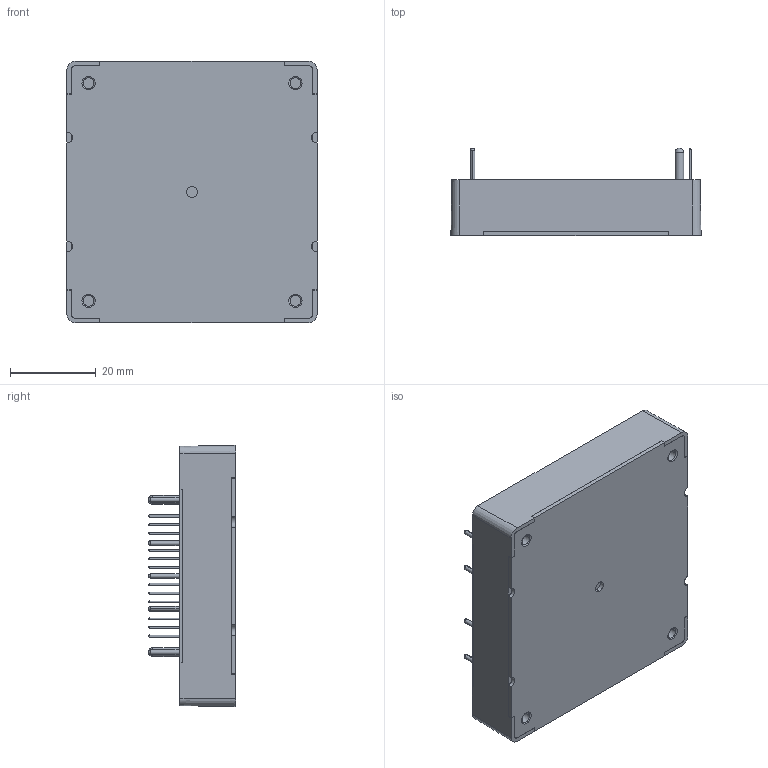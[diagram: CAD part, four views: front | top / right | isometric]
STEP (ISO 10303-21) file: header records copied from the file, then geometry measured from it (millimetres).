
FILE_DESCRIPTION (( 'STEP AP203' ), '1' );
FILE_NAME ('THREADED_PMBUS.STEP', '2024-10-23T09:37:57', ( '' ), ( '' ), 'SwSTEP 2.0', 'SolidWorks 2021', '' );
FILE_SCHEMA (( 'CONFIG_CONTROL_DESIGN' ));
Length unit declared in the file: millimetre
Products named in the file (1): THREADED_PMBUS
Bounding box: 58.4 x 20.38 x 61 mm (x, y, z)
Volume: 42480.9 mm3; surface area: 19097.6 mm2
Topology: 3 solids, 3 shells, 597 faces, 1643 edges, 1042 vertices
Faces by surface type: plane 392, cylinder 166, cone 30, sphere 9
Entity records: 19519 total; most frequent: CARTESIAN_POINT 4532, ORIENTED_EDGE 3232, DIRECTION 2942, EDGE_CURVE 1616, VERTEX_POINT 1024, AXIS2_PLACEMENT_3D 998, VECTOR 946, LINE 946
